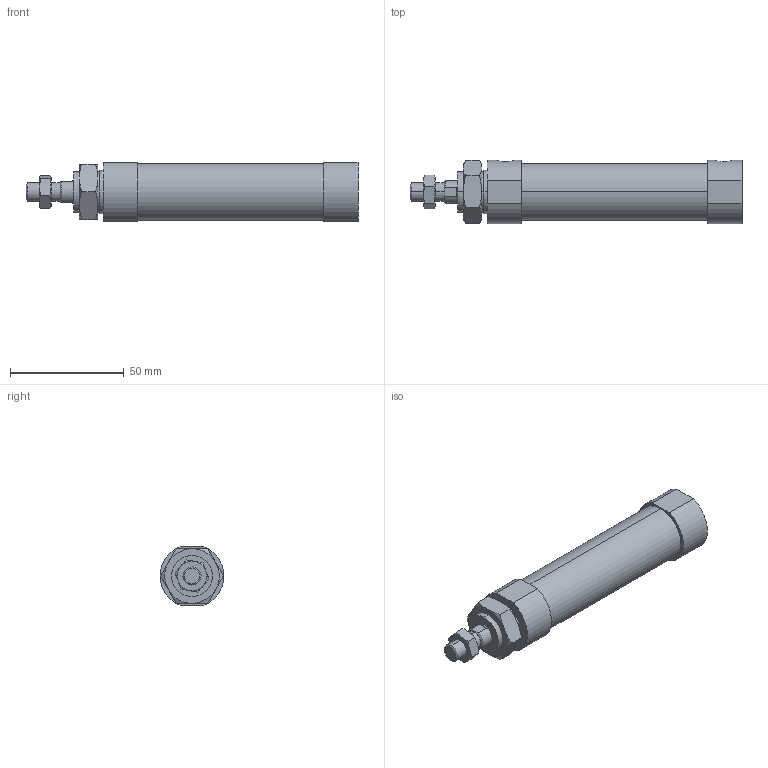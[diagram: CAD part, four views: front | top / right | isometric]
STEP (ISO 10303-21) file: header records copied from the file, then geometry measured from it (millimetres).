
FILE_DESCRIPTION (( 'STEP AP203' ), '1' );
FILE_NAME ('JGND2-20-50-N.STEP', '2016-08-04T02:23:32', ( '' ), ( '' ), 'SwSTEP 2.0', 'SolidWorks 2014', '' );
FILE_SCHEMA (( 'CONFIG_CONTROL_DESIGN' ));
Length unit declared in the file: millimetre
Products named in the file (4): JGND2-20-50-N; J#2-20-50(P)
Assembly tree (3 placements, depth 2):
  JGND2-20-50-N
    J#2-20-50(P)
    (unnamed)
    (unnamed)
Bounding box: 146 x 28 x 26 mm (x, y, z)
Volume: 64135.7 mm3; surface area: 14645.9 mm2
Topology: 3 solids, 3 shells, 84 faces, 182 edges, 112 vertices
Faces by surface type: plane 34, torus 24, cylinder 22, cone 4
Entity records: 3040 total; most frequent: CARTESIAN_POINT 840, DIRECTION 378, ORIENTED_EDGE 364, EDGE_CURVE 182, AXIS2_PLACEMENT_3D 162, VERTEX_POINT 112, EDGE_LOOP 96, ADVANCED_FACE 84
